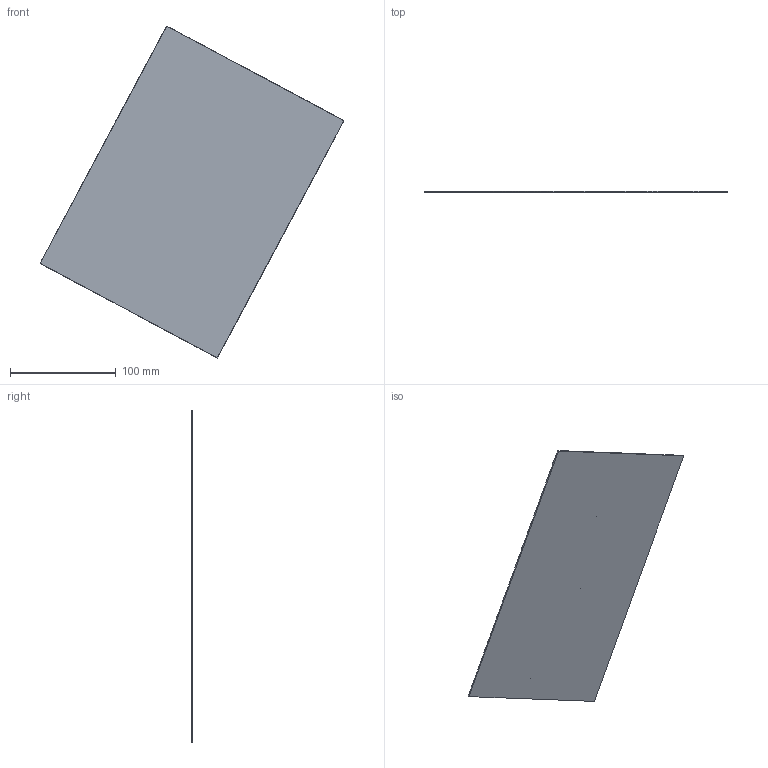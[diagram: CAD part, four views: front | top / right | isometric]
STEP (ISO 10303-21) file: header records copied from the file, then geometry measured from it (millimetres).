
FILE_DESCRIPTION(/* description */ (''),/* implementation_level */ '2;1');
FILE_NAME(/* name */ '/Users/alexbogusky/Desktop/Diamond Plate v1.step',/* time_stamp */ '2019-01-05T20:21:26-10:00',/* author */ ('alex@bogusky.me'),/* organization */ (''),/* preprocessor_version */ 'ST-DEVELOPER v17.2',/* originating_system */ 'Autodesk Translation Framework v7.6.0.251',/* authorisation */ '');
FILE_SCHEMA (('AUTOMOTIVE_DESIGN { 1 0 10303 214 3 1 1 }'));
Products named in the file (2): Diamond Plate; Component1
Assembly tree (1 placements, depth 2):
  Diamond Plate
    Component1
Bounding box: 287.41 x 1.25 x 313.94 mm (x, y, z)
Volume: 50347.7 mm3; surface area: 102501.5 mm2
Topology: 1 solids, 1 shells, 4827 faces, 11162 edges, 7485 vertices
Faces by surface type: bspline 3357, plane 1470
Entity records: 133195 total; most frequent: CARTESIAN_POINT 58489, ORIENTED_EDGE 22324, EDGE_CURVE 11162, VERTEX_POINT 7485, DIRECTION 6322, EDGE_LOOP 5975, FACE_OUTER_BOUND 4827, ADVANCED_FACE 4827
